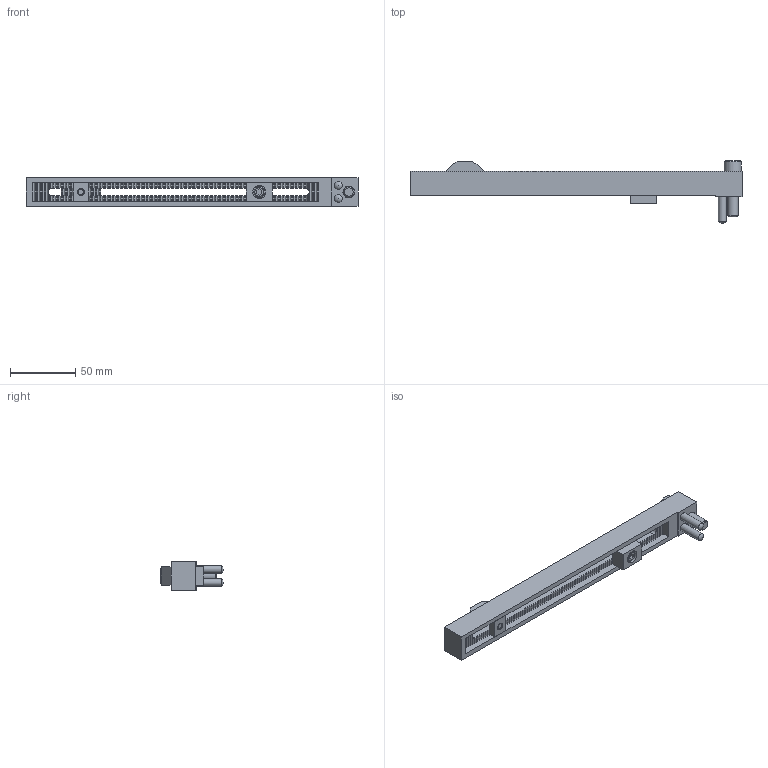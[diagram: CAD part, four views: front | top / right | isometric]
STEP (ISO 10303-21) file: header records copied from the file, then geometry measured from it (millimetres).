
FILE_DESCRIPTION(/* description */ ('STEP AP214'),/* implementation_level */ '2;1');
FILE_NAME(/* name */ 'KU11254',/* time_stamp */ '2024-12-19T07:56:54+01:00',/* author */ ('License CC BY-ND 4.0'),/* organization */ ('CADENAS'),/* preprocessor_version */ 'ST-DEVELOPER v19.3',/* originating_system */ 'PARTsolutions',/* authorisation */ ' ');
FILE_SCHEMA (('AUTOMOTIVE_DESIGN { 1 0 10303 214 3 1 1 }','AUTOMOTIVE_DESIGN {1 0 10303 214 3 1 1}'));
Length unit declared in the file: millimetre
Products named in the file (10): KU11254; KU112541; KU112542; KU112543; KU112544; KU112545; KU112546; KU112547; KU112548; KU112549
Assembly tree (10 placements, depth 2):
  KU11254
    KU112541
    KU112542
    KU112543
    KU112544
    KU112545
    KU112546
    KU112547
    KU112548  x2
    KU112549
Bounding box: 254 x 48 x 22 mm (x, y, z)
Volume: 73062.2 mm3; surface area: 39850.5 mm2
Topology: 10 solids, 10 shells, 1025 faces, 2997 edges, 1992 vertices
Faces by surface type: plane 996, cylinder 19, cone 6, sphere 4
Full cylindrical faces by diameter (mm): 5 x2, 5.5 x4, 6 x4, 8 x1, 8.5 x2, 9 x1, 10 x2, 13 x1
Entity records: 33343 total; most frequent: CARTESIAN_POINT 5975, ORIENTED_EDGE 5920, DIRECTION 5120, EDGE_CURVE 2960, LINE 2866, VECTOR 2866, VERTEX_POINT 1982, AXIS2_PLACEMENT_3D 1127
